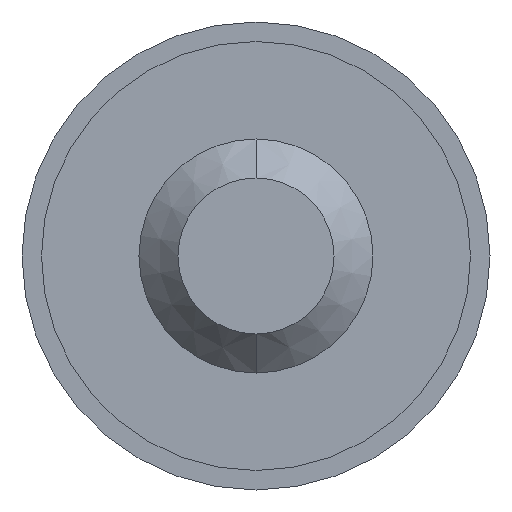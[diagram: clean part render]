
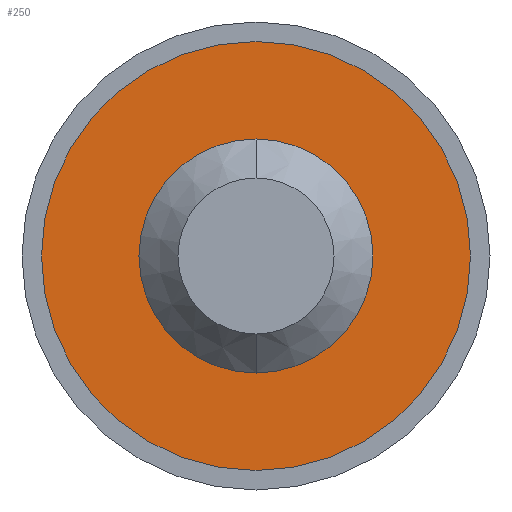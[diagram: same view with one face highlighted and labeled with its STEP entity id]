
A CAD part, front view. The second image highlights one B-rep face of the part: STEP entity #250.
In plain terms, the highlighted planar face has unit normal (0, -1, 0).
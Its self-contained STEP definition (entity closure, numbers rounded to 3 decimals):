
#161 = EDGE_CURVE ( 'NONE', #1219, #3367, #357, .T. ) ;
#250 = ADVANCED_FACE ( 'NONE', ( #4354, #821 ), #1245, .F. ) ;
#312 = VERTEX_POINT ( 'NONE', #3792 ) ;
#357 = CIRCLE ( 'NONE', #2997, 1.5 ) ;
#592 = CARTESIAN_POINT ( 'NONE',  ( 0., -0.5, 2.75 ) ) ;
#740 = DIRECTION ( 'NONE',  ( 0., 1., 0. ) ) ;
#754 = CARTESIAN_POINT ( 'NONE',  ( 0., -0.5, 0. ) ) ;
#821 = FACE_OUTER_BOUND ( 'NONE', #2675, .T. ) ;
#918 = DIRECTION ( 'NONE',  ( 0., -1., 0. ) ) ;
#1104 = CIRCLE ( 'NONE', #2734, 2.75 ) ;
#1163 = DIRECTION ( 'NONE',  ( 0., 1., 0. ) ) ;
#1219 = VERTEX_POINT ( 'NONE', #3276 ) ;
#1245 = PLANE ( 'NONE',  #4460 ) ;
#1321 = CARTESIAN_POINT ( 'NONE',  ( 0., -0.5, 0. ) ) ;
#1448 = CARTESIAN_POINT ( 'NONE',  ( 0., -0.5, -1.5 ) ) ;
#1554 = CIRCLE ( 'NONE', #4138, 2.75 ) ;
#1687 = ORIENTED_EDGE ( 'NONE', *, *, #2906, .F. ) ;
#1835 = EDGE_LOOP ( 'NONE', ( #2458, #2637 ) ) ;
#1837 = DIRECTION ( 'NONE',  ( 0., 0., 1. ) ) ;
#1851 = CARTESIAN_POINT ( 'NONE',  ( 0., -0.5, 0. ) ) ;
#2243 = DIRECTION ( 'NONE',  ( 0., 0., 1. ) ) ;
#2438 = CARTESIAN_POINT ( 'NONE',  ( 0., -0.5, 0. ) ) ;
#2458 = ORIENTED_EDGE ( 'NONE', *, *, #161, .F. ) ;
#2472 = DIRECTION ( 'NONE',  ( 0., 1., 0. ) ) ;
#2637 = ORIENTED_EDGE ( 'NONE', *, *, #3168, .F. ) ;
#2675 = EDGE_LOOP ( 'NONE', ( #3354, #1687 ) ) ;
#2734 = AXIS2_PLACEMENT_3D ( 'NONE', #1851, #1163, #1837 ) ;
#2906 = EDGE_CURVE ( 'NONE', #312, #3228, #1554, .T. ) ;
#2917 = EDGE_CURVE ( 'NONE', #3228, #312, #1104, .T. ) ;
#2997 = AXIS2_PLACEMENT_3D ( 'NONE', #4549, #3106, #3476 ) ;
#3106 = DIRECTION ( 'NONE',  ( 0., -1., 0. ) ) ;
#3168 = EDGE_CURVE ( 'NONE', #3367, #1219, #3492, .T. ) ;
#3228 = VERTEX_POINT ( 'NONE', #592 ) ;
#3276 = CARTESIAN_POINT ( 'NONE',  ( 0., -0.5, 1.5 ) ) ;
#3354 = ORIENTED_EDGE ( 'NONE', *, *, #2917, .F. ) ;
#3367 = VERTEX_POINT ( 'NONE', #1448 ) ;
#3476 = DIRECTION ( 'NONE',  ( 0., 0., -1. ) ) ;
#3492 = CIRCLE ( 'NONE', #3758, 1.5 ) ;
#3758 = AXIS2_PLACEMENT_3D ( 'NONE', #1321, #918, #4543 ) ;
#3792 = CARTESIAN_POINT ( 'NONE',  ( 0., -0.5, -2.75 ) ) ;
#4138 = AXIS2_PLACEMENT_3D ( 'NONE', #754, #740, #2243 ) ;
#4250 = DIRECTION ( 'NONE',  ( 0., 0., 1. ) ) ;
#4354 = FACE_BOUND ( 'NONE', #1835, .T. ) ;
#4460 = AXIS2_PLACEMENT_3D ( 'NONE', #2438, #2472, #4250 ) ;
#4543 = DIRECTION ( 'NONE',  ( 0., 0., -1. ) ) ;
#4549 = CARTESIAN_POINT ( 'NONE',  ( 0., -0.5, 0. ) ) ;
